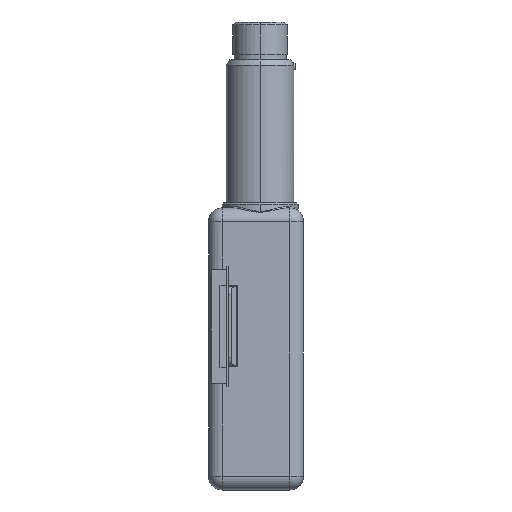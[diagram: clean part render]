
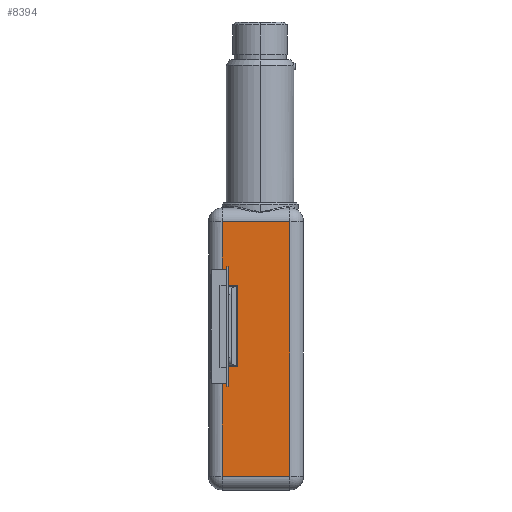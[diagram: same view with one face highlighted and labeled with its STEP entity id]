
A CAD part, left-side view. The second image highlights one B-rep face of the part: STEP entity #8394.
In plain terms, the highlighted planar face has unit normal (-1, 0, 0).
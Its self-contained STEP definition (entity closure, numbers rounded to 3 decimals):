
#22 = VECTOR ( 'NONE', #6025, 1000. ) ;
#97 = VERTEX_POINT ( 'NONE', #1212 ) ;
#103 = ORIENTED_EDGE ( 'NONE', *, *, #2165, .F. ) ;
#143 = VECTOR ( 'NONE', #3203, 1000. ) ;
#168 = LINE ( 'NONE', #1429, #5170 ) ;
#239 = EDGE_CURVE ( 'NONE', #7040, #1306, #6627, .T. ) ;
#349 = CARTESIAN_POINT ( 'NONE',  ( -7.75, 6.1, -57.14 ) ) ;
#390 = FACE_OUTER_BOUND ( 'NONE', #5515, .T. ) ;
#502 = CARTESIAN_POINT ( 'NONE',  ( -7.75, 5.9, -57.14 ) ) ;
#511 = VECTOR ( 'NONE', #5577, 1000. ) ;
#752 = ORIENTED_EDGE ( 'NONE', *, *, #5693, .T. ) ;
#767 = LINE ( 'NONE', #1523, #6543 ) ;
#792 = EDGE_CURVE ( 'NONE', #6990, #1064, #989, .T. ) ;
#814 = CARTESIAN_POINT ( 'NONE',  ( -7.75, 4.246, -41.558 ) ) ;
#833 = CARTESIAN_POINT ( 'NONE',  ( -7.75, 5.9, -41.558 ) ) ;
#907 = EDGE_CURVE ( 'NONE', #2661, #6146, #8864, .T. ) ;
#989 = LINE ( 'NONE', #8174, #1315 ) ;
#1064 = VERTEX_POINT ( 'NONE', #814 ) ;
#1069 = EDGE_CURVE ( 'NONE', #3371, #6146, #767, .T. ) ;
#1109 = DIRECTION ( 'NONE',  ( 0., 1., 0. ) ) ;
#1141 = LINE ( 'NONE', #502, #6437 ) ;
#1212 = CARTESIAN_POINT ( 'NONE',  ( -7.75, 5.9, -57.14 ) ) ;
#1278 = ORIENTED_EDGE ( 'NONE', *, *, #1069, .F. ) ;
#1306 = VERTEX_POINT ( 'NONE', #3284 ) ;
#1314 = ORIENTED_EDGE ( 'NONE', *, *, #7399, .T. ) ;
#1315 = VECTOR ( 'NONE', #4697, 1000. ) ;
#1429 = CARTESIAN_POINT ( 'NONE',  ( -7.75, 7., -79.29 ) ) ;
#1455 = VECTOR ( 'NONE', #6478, 1000. ) ;
#1523 = CARTESIAN_POINT ( 'NONE',  ( -7.75, 6.1, -57.14 ) ) ;
#1740 = VERTEX_POINT ( 'NONE', #7624 ) ;
#1850 = PLANE ( 'NONE',  #7446 ) ;
#1858 = VERTEX_POINT ( 'NONE', #5492 ) ;
#1986 = ORIENTED_EDGE ( 'NONE', *, *, #3590, .T. ) ;
#2014 = EDGE_CURVE ( 'NONE', #3772, #2661, #168, .T. ) ;
#2165 = EDGE_CURVE ( 'NONE', #7505, #5465, #5424, .T. ) ;
#2248 = VERTEX_POINT ( 'NONE', #5619 ) ;
#2296 = DIRECTION ( 'NONE',  ( 0., 1., 0. ) ) ;
#2381 = CARTESIAN_POINT ( 'NONE',  ( -7.75, -8., -29.79 ) ) ;
#2402 = LINE ( 'NONE', #6641, #8993 ) ;
#2501 = LINE ( 'NONE', #3644, #22 ) ;
#2540 = ORIENTED_EDGE ( 'NONE', *, *, #792, .T. ) ;
#2614 = CARTESIAN_POINT ( 'NONE',  ( -7.75, 7., -41.558 ) ) ;
#2661 = VERTEX_POINT ( 'NONE', #2614 ) ;
#2674 = DIRECTION ( 'NONE',  ( 0., 0., -1. ) ) ;
#2822 = EDGE_CURVE ( 'NONE', #1858, #3371, #8717, .T. ) ;
#2832 = CARTESIAN_POINT ( 'NONE',  ( -7.75, -5.5, -79.29 ) ) ;
#3024 = LINE ( 'NONE', #2381, #3070 ) ;
#3070 = VECTOR ( 'NONE', #1109, 1000. ) ;
#3156 = VECTOR ( 'NONE', #8679, 1000. ) ;
#3203 = DIRECTION ( 'NONE',  ( 0., 0., -1. ) ) ;
#3231 = ORIENTED_EDGE ( 'NONE', *, *, #5351, .T. ) ;
#3284 = CARTESIAN_POINT ( 'NONE',  ( -7.75, -5.5, -29.79 ) ) ;
#3339 = ORIENTED_EDGE ( 'NONE', *, *, #2014, .T. ) ;
#3371 = VERTEX_POINT ( 'NONE', #8912 ) ;
#3516 = DIRECTION ( 'NONE',  ( 0., 1., 0. ) ) ;
#3517 = CARTESIAN_POINT ( 'NONE',  ( -7.75, 5.9, -41.14 ) ) ;
#3590 = EDGE_CURVE ( 'NONE', #1858, #6990, #8638, .T. ) ;
#3644 = CARTESIAN_POINT ( 'NONE',  ( -7.75, 7., -79.29 ) ) ;
#3657 = CARTESIAN_POINT ( 'NONE',  ( -7.75, 4.246, -56.522 ) ) ;
#3664 = VECTOR ( 'NONE', #5014, 1000. ) ;
#3713 = VERTEX_POINT ( 'NONE', #5331 ) ;
#3772 = VERTEX_POINT ( 'NONE', #7477 ) ;
#3877 = LINE ( 'NONE', #5003, #511 ) ;
#4136 = VECTOR ( 'NONE', #4810, 1000. ) ;
#4185 = CARTESIAN_POINT ( 'NONE',  ( -7.75, -5.5, -76.79 ) ) ;
#4474 = DIRECTION ( 'NONE',  ( 0., 0., -1. ) ) ;
#4697 = DIRECTION ( 'NONE',  ( 0., -1., 0. ) ) ;
#4736 = CARTESIAN_POINT ( 'NONE',  ( -7.75, -8., -79.29 ) ) ;
#4810 = DIRECTION ( 'NONE',  ( 0., 0., -1. ) ) ;
#4972 = CARTESIAN_POINT ( 'NONE',  ( -7.75, -8., -56.522 ) ) ;
#5003 = CARTESIAN_POINT ( 'NONE',  ( -7.75, -8., -56.522 ) ) ;
#5014 = DIRECTION ( 'NONE',  ( 0., 1., 0. ) ) ;
#5034 = CARTESIAN_POINT ( 'NONE',  ( -7.75, 5.9, -57.14 ) ) ;
#5071 = EDGE_CURVE ( 'NONE', #7505, #1740, #8012, .T. ) ;
#5154 = VECTOR ( 'NONE', #8705, 1000. ) ;
#5158 = DIRECTION ( 'NONE',  ( 0., 0., -1. ) ) ;
#5170 = VECTOR ( 'NONE', #4474, 1000. ) ;
#5331 = CARTESIAN_POINT ( 'NONE',  ( -7.75, 5.9, -56.522 ) ) ;
#5351 = EDGE_CURVE ( 'NONE', #1740, #2248, #2501, .T. ) ;
#5377 = ORIENTED_EDGE ( 'NONE', *, *, #5071, .T. ) ;
#5385 = LINE ( 'NONE', #8326, #4136 ) ;
#5424 = LINE ( 'NONE', #8966, #143 ) ;
#5465 = VERTEX_POINT ( 'NONE', #349 ) ;
#5492 = CARTESIAN_POINT ( 'NONE',  ( -7.75, 5.9, -41.14 ) ) ;
#5515 = EDGE_LOOP ( 'NONE', ( #9164, #1986, #2540, #752, #1314, #7431, #7254, #103, #5377, #3231, #8493, #8627, #9222, #3339, #5833, #1278 ) ) ;
#5577 = DIRECTION ( 'NONE',  ( 0., 1., 0. ) ) ;
#5619 = CARTESIAN_POINT ( 'NONE',  ( -7.75, 7., -76.79 ) ) ;
#5675 = EDGE_CURVE ( 'NONE', #3713, #97, #1141, .T. ) ;
#5693 = EDGE_CURVE ( 'NONE', #1064, #7586, #5385, .T. ) ;
#5809 = VECTOR ( 'NONE', #3516, 1000. ) ;
#5833 = ORIENTED_EDGE ( 'NONE', *, *, #907, .T. ) ;
#5948 = EDGE_CURVE ( 'NONE', #97, #5465, #2402, .T. ) ;
#6025 = DIRECTION ( 'NONE',  ( 0., 0., -1. ) ) ;
#6056 = CARTESIAN_POINT ( 'NONE',  ( -7.75, 6.1, -56.522 ) ) ;
#6146 = VERTEX_POINT ( 'NONE', #6774 ) ;
#6191 = CARTESIAN_POINT ( 'NONE',  ( -7.75, -8., -41.558 ) ) ;
#6437 = VECTOR ( 'NONE', #2674, 1000. ) ;
#6478 = DIRECTION ( 'NONE',  ( 0., 0., -1. ) ) ;
#6543 = VECTOR ( 'NONE', #5158, 1000. ) ;
#6627 = LINE ( 'NONE', #2832, #5154 ) ;
#6641 = CARTESIAN_POINT ( 'NONE',  ( -7.75, 5.9, -57.14 ) ) ;
#6774 = CARTESIAN_POINT ( 'NONE',  ( -7.75, 6.1, -41.558 ) ) ;
#6783 = DIRECTION ( 'NONE',  ( 0., 0., -1. ) ) ;
#6942 = DIRECTION ( 'NONE',  ( 1., 0., 0. ) ) ;
#6990 = VERTEX_POINT ( 'NONE', #833 ) ;
#7006 = EDGE_CURVE ( 'NONE', #1306, #3772, #3024, .T. ) ;
#7040 = VERTEX_POINT ( 'NONE', #4185 ) ;
#7254 = ORIENTED_EDGE ( 'NONE', *, *, #5948, .T. ) ;
#7309 = VECTOR ( 'NONE', #8225, 1000. ) ;
#7399 = EDGE_CURVE ( 'NONE', #7586, #3713, #3877, .T. ) ;
#7431 = ORIENTED_EDGE ( 'NONE', *, *, #5675, .T. ) ;
#7446 = AXIS2_PLACEMENT_3D ( 'NONE', #4736, #6942, #6783 ) ;
#7477 = CARTESIAN_POINT ( 'NONE',  ( -7.75, 7., -29.79 ) ) ;
#7505 = VERTEX_POINT ( 'NONE', #6056 ) ;
#7586 = VERTEX_POINT ( 'NONE', #3657 ) ;
#7624 = CARTESIAN_POINT ( 'NONE',  ( -7.75, 7., -56.522 ) ) ;
#7885 = LINE ( 'NONE', #7980, #3156 ) ;
#7980 = CARTESIAN_POINT ( 'NONE',  ( -7.75, -8., -76.79 ) ) ;
#8012 = LINE ( 'NONE', #4972, #5809 ) ;
#8174 = CARTESIAN_POINT ( 'NONE',  ( -7.75, -8., -41.558 ) ) ;
#8225 = DIRECTION ( 'NONE',  ( 0., -1., 0. ) ) ;
#8275 = EDGE_CURVE ( 'NONE', #2248, #7040, #7885, .T. ) ;
#8326 = CARTESIAN_POINT ( 'NONE',  ( -7.75, 4.246, -56.29 ) ) ;
#8394 = ADVANCED_FACE ( 'NONE', ( #390 ), #1850, .F. ) ;
#8493 = ORIENTED_EDGE ( 'NONE', *, *, #8275, .T. ) ;
#8627 = ORIENTED_EDGE ( 'NONE', *, *, #239, .T. ) ;
#8638 = LINE ( 'NONE', #5034, #1455 ) ;
#8679 = DIRECTION ( 'NONE',  ( 0., -1., 0. ) ) ;
#8705 = DIRECTION ( 'NONE',  ( 0., 0., 1. ) ) ;
#8717 = LINE ( 'NONE', #3517, #3664 ) ;
#8864 = LINE ( 'NONE', #6191, #7309 ) ;
#8912 = CARTESIAN_POINT ( 'NONE',  ( -7.75, 6.1, -41.14 ) ) ;
#8966 = CARTESIAN_POINT ( 'NONE',  ( -7.75, 6.1, -57.14 ) ) ;
#8993 = VECTOR ( 'NONE', #2296, 1000. ) ;
#9164 = ORIENTED_EDGE ( 'NONE', *, *, #2822, .F. ) ;
#9222 = ORIENTED_EDGE ( 'NONE', *, *, #7006, .T. ) ;
